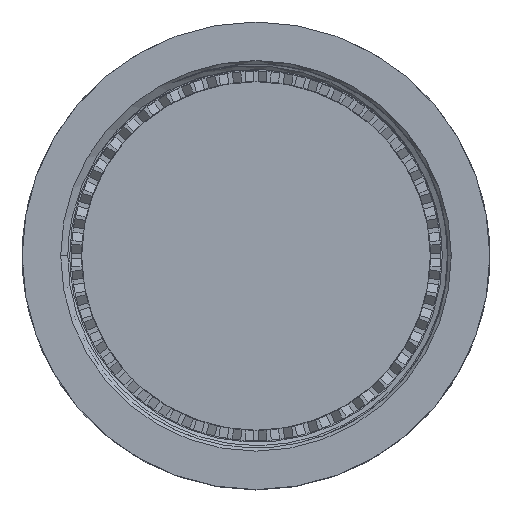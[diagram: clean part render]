
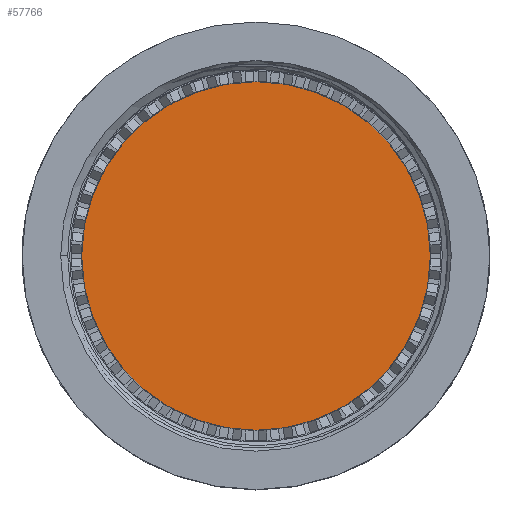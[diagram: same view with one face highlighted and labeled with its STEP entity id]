
A CAD part, top view. The second image highlights one B-rep face of the part: STEP entity #57766.
In plain terms, the highlighted planar face has unit normal (0, 0, 1).
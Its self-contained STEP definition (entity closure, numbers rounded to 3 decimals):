
#2313 = CIRCLE ( 'NONE', #63171, 16.726 ) ;
#3410 = CARTESIAN_POINT ( 'NONE',  ( 0., 0., -1.852 ) ) ;
#9003 = CARTESIAN_POINT ( 'NONE',  ( 0., 0., -1.852 ) ) ;
#11712 = EDGE_CURVE ( 'NONE', #34137, #39137, #24240, .T. ) ;
#22928 = DIRECTION ( 'NONE',  ( -1., 0., 0. ) ) ;
#24240 = CIRCLE ( 'NONE', #60977, 16.726 ) ;
#26935 = PLANE ( 'NONE',  #48728 ) ;
#28750 = DIRECTION ( 'NONE',  ( 0., 0., 1. ) ) ;
#29095 = DIRECTION ( 'NONE',  ( 0., 0., 1. ) ) ;
#33227 = CARTESIAN_POINT ( 'NONE',  ( -16.726, 0., -1.852 ) ) ;
#34137 = VERTEX_POINT ( 'NONE', #57219 ) ;
#36522 = ORIENTED_EDGE ( 'NONE', *, *, #11712, .T. ) ;
#37303 = EDGE_CURVE ( 'NONE', #39137, #34137, #2313, .T. ) ;
#39137 = VERTEX_POINT ( 'NONE', #33227 ) ;
#43006 = DIRECTION ( 'NONE',  ( 0., 0., -1. ) ) ;
#44175 = DIRECTION ( 'NONE',  ( -1., 0., 0. ) ) ;
#44795 = EDGE_LOOP ( 'NONE', ( #36522, #45297 ) ) ;
#45297 = ORIENTED_EDGE ( 'NONE', *, *, #37303, .T. ) ;
#48728 = AXIS2_PLACEMENT_3D ( 'NONE', #57155, #43006, #22928 ) ;
#48798 = DIRECTION ( 'NONE',  ( -1., 0., 0. ) ) ;
#57155 = CARTESIAN_POINT ( 'NONE',  ( 0., 0., -1.852 ) ) ;
#57219 = CARTESIAN_POINT ( 'NONE',  ( 16.726, 0., -1.852 ) ) ;
#57475 = FACE_OUTER_BOUND ( 'NONE', #44795, .T. ) ;
#57766 = ADVANCED_FACE ( 'NONE', ( #57475 ), #26935, .F. ) ;
#60977 = AXIS2_PLACEMENT_3D ( 'NONE', #9003, #29095, #44175 ) ;
#63171 = AXIS2_PLACEMENT_3D ( 'NONE', #3410, #28750, #48798 ) ;
